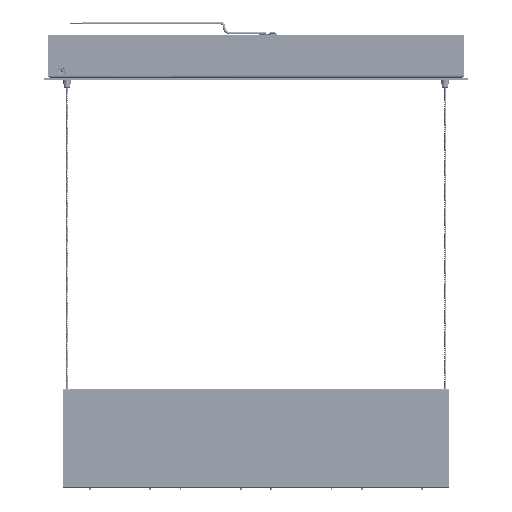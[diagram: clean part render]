
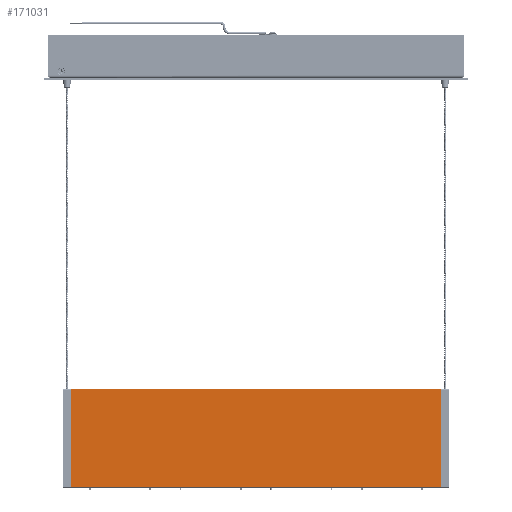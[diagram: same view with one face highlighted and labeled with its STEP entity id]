
A CAD part, top view. The second image highlights one B-rep face of the part: STEP entity #171031.
In plain terms, the highlighted planar face has unit normal (0, 0, 1) as drawn and (1, 0, 0) by its records, which use the part's own axes.
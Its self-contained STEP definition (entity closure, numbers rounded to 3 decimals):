
#11295 = VERTEX_POINT ( 'NONE', #301842 ) ;
#11513 = AXIS2_PLACEMENT_3D ( 'NONE', #296509, #189268, #57851 ) ;
#23984 = VECTOR ( 'NONE', #199901, 1000. ) ;
#39165 = VECTOR ( 'NONE', #77161, 1000. ) ;
#57851 = DIRECTION ( 'NONE',  ( 0., 1., 0. ) ) ;
#59326 = CARTESIAN_POINT ( 'NONE',  ( 82.563, 82.55, -311.15 ) ) ;
#70842 = VECTOR ( 'NONE', #120382, 1000. ) ;
#77161 = DIRECTION ( 'NONE',  ( 0., 1., 0. ) ) ;
#84137 = CARTESIAN_POINT ( 'NONE',  ( 82.563, 0.381, -311.15 ) ) ;
#96613 = VERTEX_POINT ( 'NONE', #309503 ) ;
#98512 = ORIENTED_EDGE ( 'NONE', *, *, #148337, .T. ) ;
#120382 = DIRECTION ( 'NONE',  ( 0., 0., 1. ) ) ;
#128345 = ORIENTED_EDGE ( 'NONE', *, *, #242406, .T. ) ;
#148337 = EDGE_CURVE ( 'NONE', #298071, #149509, #338237, .T. ) ;
#149509 = VERTEX_POINT ( 'NONE', #338297 ) ;
#165370 = DIRECTION ( 'NONE',  ( 0., 0., 1. ) ) ;
#171031 = ADVANCED_FACE ( 'NONE', ( #270514 ), #242826, .T. ) ;
#176933 = EDGE_CURVE ( 'NONE', #96613, #149509, #244931, .T. ) ;
#186082 = LINE ( 'NONE', #189492, #39165 ) ;
#189268 = DIRECTION ( 'NONE',  ( 1., 0., 0. ) ) ;
#189492 = CARTESIAN_POINT ( 'NONE',  ( 82.563, 0.381, -311.15 ) ) ;
#199901 = DIRECTION ( 'NONE',  ( 0., 1., 0. ) ) ;
#212182 = CARTESIAN_POINT ( 'NONE',  ( 82.563, 0.381, 0. ) ) ;
#215574 = LINE ( 'NONE', #84137, #294420 ) ;
#231003 = CARTESIAN_POINT ( 'NONE',  ( 82.563, 82.55, -311.15 ) ) ;
#242406 = EDGE_CURVE ( 'NONE', #11295, #298071, #186082, .T. ) ;
#242826 = PLANE ( 'NONE',  #11513 ) ;
#244931 = LINE ( 'NONE', #212182, #23984 ) ;
#246008 = EDGE_CURVE ( 'NONE', #11295, #96613, #215574, .T. ) ;
#270514 = FACE_OUTER_BOUND ( 'NONE', #309036, .T. ) ;
#294420 = VECTOR ( 'NONE', #165370, 1000. ) ;
#296509 = CARTESIAN_POINT ( 'NONE',  ( 82.563, 0.381, -311.15 ) ) ;
#298071 = VERTEX_POINT ( 'NONE', #59326 ) ;
#301842 = CARTESIAN_POINT ( 'NONE',  ( 82.563, 0.381, -311.15 ) ) ;
#306199 = ORIENTED_EDGE ( 'NONE', *, *, #176933, .F. ) ;
#309036 = EDGE_LOOP ( 'NONE', ( #306199, #333265, #128345, #98512 ) ) ;
#309503 = CARTESIAN_POINT ( 'NONE',  ( 82.563, 0.381, 0. ) ) ;
#333265 = ORIENTED_EDGE ( 'NONE', *, *, #246008, .F. ) ;
#338237 = LINE ( 'NONE', #231003, #70842 ) ;
#338297 = CARTESIAN_POINT ( 'NONE',  ( 82.563, 82.55, 0. ) ) ;
